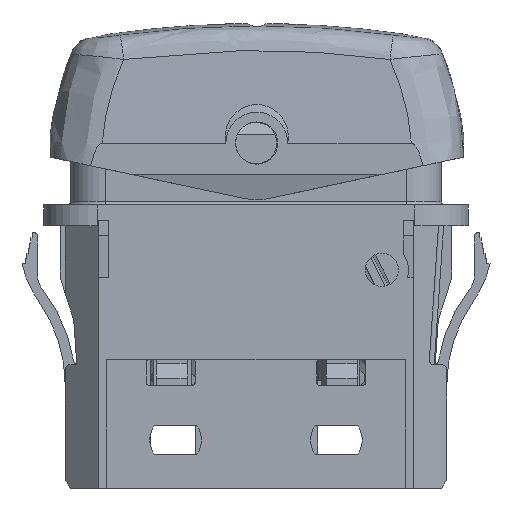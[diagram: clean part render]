
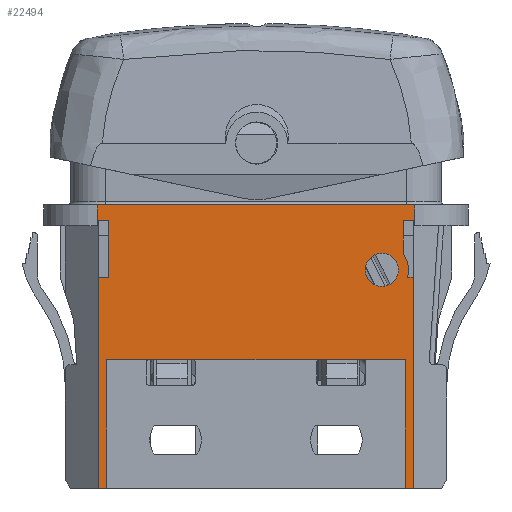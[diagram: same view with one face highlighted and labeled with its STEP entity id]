
A CAD part, front view. The second image highlights one B-rep face of the part: STEP entity #22494.
In plain terms, the highlighted planar face has unit normal (0, -1, 0).
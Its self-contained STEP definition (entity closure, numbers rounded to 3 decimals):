
#22312=AXIS2_PLACEMENT_3D('Plane Axis2P3D',#22309,#22310,#22311) ;
#22402=AXIS2_PLACEMENT_3D('Circle Axis2P3D',#22400,#22401,$) ;
#22409=AXIS2_PLACEMENT_3D('Circle Axis2P3D',#22407,#22408,$) ;
#22478=AXIS2_PLACEMENT_3D('Circle Axis2P3D',#22476,#22477,$) ;
#22487=AXIS2_PLACEMENT_3D('Circle Axis2P3D',#22485,#22486,$) ;
#19652=CARTESIAN_POINT('Vertex',(-15.4,-9.7,2.)) ;
#19655=CARTESIAN_POINT('Line Origine',(0.,-9.7,2.)) ;
#19659=CARTESIAN_POINT('Vertex',(15.4,-9.7,2.)) ;
#22294=CARTESIAN_POINT('Vertex',(-15.4,-9.7,0.)) ;
#22297=CARTESIAN_POINT('Line Origine',(-15.4,-9.7,1.)) ;
#22309=CARTESIAN_POINT('Axis2P3D Location',(-0.077,-9.7,8.796)) ;
#22314=CARTESIAN_POINT('Line Origine',(-15.275,-9.7,0.25)) ;
#22318=CARTESIAN_POINT('Vertex',(-15.275,-9.7,0.)) ;
#22320=CARTESIAN_POINT('Vertex',(-15.275,-9.7,0.5)) ;
#22323=CARTESIAN_POINT('Line Origine',(-14.775,-9.7,0.5)) ;
#22327=CARTESIAN_POINT('Vertex',(-14.275,-9.7,0.5)) ;
#22330=CARTESIAN_POINT('Line Origine',(-14.275,-9.7,-2.25)) ;
#22334=CARTESIAN_POINT('Vertex',(-14.275,-9.7,-5.)) ;
#22337=CARTESIAN_POINT('Line Origine',(-14.775,-9.7,-5.)) ;
#22341=CARTESIAN_POINT('Vertex',(-15.275,-9.7,-5.)) ;
#22344=CARTESIAN_POINT('Line Origine',(-15.275,-9.7,-15.25)) ;
#22348=CARTESIAN_POINT('Vertex',(-15.275,-9.7,-25.5)) ;
#22351=CARTESIAN_POINT('Line Origine',(-14.888,-9.7,-25.5)) ;
#22355=CARTESIAN_POINT('Vertex',(-14.5,-9.7,-25.5)) ;
#22358=CARTESIAN_POINT('Line Origine',(-14.5,-9.7,-19.25)) ;
#22362=CARTESIAN_POINT('Vertex',(-14.5,-9.7,-13.)) ;
#22365=CARTESIAN_POINT('Line Origine',(0.,-9.7,-13.)) ;
#22369=CARTESIAN_POINT('Vertex',(14.5,-9.7,-13.)) ;
#22372=CARTESIAN_POINT('Line Origine',(14.5,-9.7,-19.25)) ;
#22376=CARTESIAN_POINT('Vertex',(14.5,-9.7,-25.5)) ;
#22379=CARTESIAN_POINT('Line Origine',(14.888,-9.7,-25.5)) ;
#22383=CARTESIAN_POINT('Vertex',(15.275,-9.7,-25.5)) ;
#22386=CARTESIAN_POINT('Line Origine',(15.275,-9.7,-15.25)) ;
#22390=CARTESIAN_POINT('Vertex',(15.275,-9.7,-5.)) ;
#22393=CARTESIAN_POINT('Line Origine',(14.989,-9.7,-5.)) ;
#22397=CARTESIAN_POINT('Vertex',(14.704,-9.7,-5.)) ;
#22400=CARTESIAN_POINT('Axis2P3D Location',(12.2,-9.7,-4.3)) ;
#22404=CARTESIAN_POINT('Vertex',(14.8,-9.7,-4.3)) ;
#22407=CARTESIAN_POINT('Axis2P3D Location',(12.2,-9.7,-4.3)) ;
#22411=CARTESIAN_POINT('Vertex',(14.275,-9.7,-2.733)) ;
#22414=CARTESIAN_POINT('Line Origine',(14.275,-9.7,-1.117)) ;
#22418=CARTESIAN_POINT('Vertex',(14.275,-9.7,0.5)) ;
#22421=CARTESIAN_POINT('Line Origine',(14.775,-9.7,0.5)) ;
#22425=CARTESIAN_POINT('Vertex',(15.275,-9.7,0.5)) ;
#22428=CARTESIAN_POINT('Line Origine',(15.275,-9.7,0.25)) ;
#22432=CARTESIAN_POINT('Vertex',(15.275,-9.7,0.)) ;
#22435=CARTESIAN_POINT('Line Origine',(15.338,-9.7,0.)) ;
#22439=CARTESIAN_POINT('Vertex',(15.4,-9.7,0.)) ;
#22442=CARTESIAN_POINT('Line Origine',(15.4,-9.7,1.)) ;
#22447=CARTESIAN_POINT('Line Origine',(-15.338,-9.7,0.)) ;
#22476=CARTESIAN_POINT('Axis2P3D Location',(12.2,-9.7,-4.3)) ;
#22480=CARTESIAN_POINT('Vertex',(10.6,-9.7,-4.3)) ;
#22482=CARTESIAN_POINT('Vertex',(13.8,-9.7,-4.3)) ;
#22485=CARTESIAN_POINT('Axis2P3D Location',(12.2,-9.7,-4.3)) ;
#19656=DIRECTION('Vector Direction',(1.,0.,0.)) ;
#22298=DIRECTION('Vector Direction',(0.,0.,-1.)) ;
#22310=DIRECTION('Axis2P3D Direction',(-0.,-1.,-0.)) ;
#22311=DIRECTION('Axis2P3D XDirection',(-1.,0.,0.)) ;
#22315=DIRECTION('Vector Direction',(0.,0.,1.)) ;
#22324=DIRECTION('Vector Direction',(-1.,0.,0.)) ;
#22331=DIRECTION('Vector Direction',(0.,0.,1.)) ;
#22338=DIRECTION('Vector Direction',(-1.,0.,0.)) ;
#22345=DIRECTION('Vector Direction',(0.,0.,-1.)) ;
#22352=DIRECTION('Vector Direction',(1.,0.,0.)) ;
#22359=DIRECTION('Vector Direction',(0.,0.,-1.)) ;
#22366=DIRECTION('Vector Direction',(1.,0.,0.)) ;
#22373=DIRECTION('Vector Direction',(0.,0.,-1.)) ;
#22380=DIRECTION('Vector Direction',(1.,0.,0.)) ;
#22387=DIRECTION('Vector Direction',(0.,0.,-1.)) ;
#22394=DIRECTION('Vector Direction',(-1.,0.,0.)) ;
#22401=DIRECTION('Axis2P3D Direction',(-0.,-1.,-0.)) ;
#22408=DIRECTION('Axis2P3D Direction',(-0.,-1.,-0.)) ;
#22415=DIRECTION('Vector Direction',(0.,0.,-1.)) ;
#22422=DIRECTION('Vector Direction',(-1.,0.,0.)) ;
#22429=DIRECTION('Vector Direction',(0.,0.,-1.)) ;
#22436=DIRECTION('Vector Direction',(1.,0.,0.)) ;
#22443=DIRECTION('Vector Direction',(0.,0.,-1.)) ;
#22448=DIRECTION('Vector Direction',(1.,0.,0.)) ;
#22477=DIRECTION('Axis2P3D Direction',(-0.,-1.,-0.)) ;
#22486=DIRECTION('Axis2P3D Direction',(-0.,-1.,-0.)) ;
#19657=VECTOR('Line Direction',#19656,1.) ;
#22299=VECTOR('Line Direction',#22298,1.) ;
#22316=VECTOR('Line Direction',#22315,1.) ;
#22325=VECTOR('Line Direction',#22324,1.) ;
#22332=VECTOR('Line Direction',#22331,1.) ;
#22339=VECTOR('Line Direction',#22338,1.) ;
#22346=VECTOR('Line Direction',#22345,1.) ;
#22353=VECTOR('Line Direction',#22352,1.) ;
#22360=VECTOR('Line Direction',#22359,1.) ;
#22367=VECTOR('Line Direction',#22366,1.) ;
#22374=VECTOR('Line Direction',#22373,1.) ;
#22381=VECTOR('Line Direction',#22380,1.) ;
#22388=VECTOR('Line Direction',#22387,1.) ;
#22395=VECTOR('Line Direction',#22394,1.) ;
#22416=VECTOR('Line Direction',#22415,1.) ;
#22423=VECTOR('Line Direction',#22422,1.) ;
#22430=VECTOR('Line Direction',#22429,1.) ;
#22437=VECTOR('Line Direction',#22436,1.) ;
#22444=VECTOR('Line Direction',#22443,1.) ;
#22449=VECTOR('Line Direction',#22448,1.) ;
#22453=ORIENTED_EDGE('',*,*,#22322,.T.) ;
#22454=ORIENTED_EDGE('',*,*,#22329,.F.) ;
#22455=ORIENTED_EDGE('',*,*,#22336,.F.) ;
#22456=ORIENTED_EDGE('',*,*,#22343,.T.) ;
#22457=ORIENTED_EDGE('',*,*,#22350,.T.) ;
#22458=ORIENTED_EDGE('',*,*,#22357,.T.) ;
#22459=ORIENTED_EDGE('',*,*,#22364,.F.) ;
#22460=ORIENTED_EDGE('',*,*,#22371,.T.) ;
#22461=ORIENTED_EDGE('',*,*,#22378,.T.) ;
#22462=ORIENTED_EDGE('',*,*,#22385,.T.) ;
#22463=ORIENTED_EDGE('',*,*,#22392,.F.) ;
#22464=ORIENTED_EDGE('',*,*,#22399,.T.) ;
#22465=ORIENTED_EDGE('',*,*,#22406,.T.) ;
#22466=ORIENTED_EDGE('',*,*,#22413,.T.) ;
#22467=ORIENTED_EDGE('',*,*,#22420,.F.) ;
#22468=ORIENTED_EDGE('',*,*,#22427,.F.) ;
#22469=ORIENTED_EDGE('',*,*,#22434,.T.) ;
#22470=ORIENTED_EDGE('',*,*,#22441,.T.) ;
#22471=ORIENTED_EDGE('',*,*,#22446,.F.) ;
#22472=ORIENTED_EDGE('',*,*,#19661,.F.) ;
#22473=ORIENTED_EDGE('',*,*,#22301,.T.) ;
#22474=ORIENTED_EDGE('',*,*,#22451,.T.) ;
#22491=ORIENTED_EDGE('',*,*,#22484,.F.) ;
#22492=ORIENTED_EDGE('',*,*,#22489,.F.) ;
#22493=FACE_BOUND('',#22490,.T.) ;
#22494=ADVANCED_FACE('PartBody ( Schalter )',(#22475,#22493),#22313,.T.) ;
#22403=CIRCLE('generated circle',#22402,2.6) ;
#22410=CIRCLE('generated circle',#22409,2.6) ;
#22479=CIRCLE('generated circle',#22478,1.6) ;
#22488=CIRCLE('generated circle',#22487,1.6) ;
#19661=EDGE_CURVE('',#19653,#19660,#19658,.T.) ;
#22301=EDGE_CURVE('',#19653,#22295,#22300,.T.) ;
#22322=EDGE_CURVE('',#22319,#22321,#22317,.T.) ;
#22329=EDGE_CURVE('',#22328,#22321,#22326,.T.) ;
#22336=EDGE_CURVE('',#22335,#22328,#22333,.T.) ;
#22343=EDGE_CURVE('',#22335,#22342,#22340,.T.) ;
#22350=EDGE_CURVE('',#22342,#22349,#22347,.T.) ;
#22357=EDGE_CURVE('',#22349,#22356,#22354,.T.) ;
#22364=EDGE_CURVE('',#22363,#22356,#22361,.T.) ;
#22371=EDGE_CURVE('',#22363,#22370,#22368,.T.) ;
#22378=EDGE_CURVE('',#22370,#22377,#22375,.T.) ;
#22385=EDGE_CURVE('',#22377,#22384,#22382,.T.) ;
#22392=EDGE_CURVE('',#22391,#22384,#22389,.T.) ;
#22399=EDGE_CURVE('',#22391,#22398,#22396,.T.) ;
#22406=EDGE_CURVE('',#22398,#22405,#22403,.T.) ;
#22413=EDGE_CURVE('',#22405,#22412,#22410,.T.) ;
#22420=EDGE_CURVE('',#22419,#22412,#22417,.T.) ;
#22427=EDGE_CURVE('',#22426,#22419,#22424,.T.) ;
#22434=EDGE_CURVE('',#22426,#22433,#22431,.T.) ;
#22441=EDGE_CURVE('',#22433,#22440,#22438,.T.) ;
#22446=EDGE_CURVE('',#19660,#22440,#22445,.T.) ;
#22451=EDGE_CURVE('',#22295,#22319,#22450,.T.) ;
#22484=EDGE_CURVE('',#22481,#22483,#22479,.T.) ;
#22489=EDGE_CURVE('',#22483,#22481,#22488,.T.) ;
#22452=EDGE_LOOP('',(#22453,#22454,#22455,#22456,#22457,#22458,#22459,#22460,#22461,#22462,#22463,#22464,#22465,#22466,#22467,#22468,#22469,#22470,#22471,#22472,#22473,#22474)) ;
#22490=EDGE_LOOP('',(#22491,#22492)) ;
#22475=FACE_OUTER_BOUND('',#22452,.T.) ;
#19658=LINE('Line',#19655,#19657) ;
#22300=LINE('Line',#22297,#22299) ;
#22317=LINE('Line',#22314,#22316) ;
#22326=LINE('Line',#22323,#22325) ;
#22333=LINE('Line',#22330,#22332) ;
#22340=LINE('Line',#22337,#22339) ;
#22347=LINE('Line',#22344,#22346) ;
#22354=LINE('Line',#22351,#22353) ;
#22361=LINE('Line',#22358,#22360) ;
#22368=LINE('Line',#22365,#22367) ;
#22375=LINE('Line',#22372,#22374) ;
#22382=LINE('Line',#22379,#22381) ;
#22389=LINE('Line',#22386,#22388) ;
#22396=LINE('Line',#22393,#22395) ;
#22417=LINE('Line',#22414,#22416) ;
#22424=LINE('Line',#22421,#22423) ;
#22431=LINE('Line',#22428,#22430) ;
#22438=LINE('Line',#22435,#22437) ;
#22445=LINE('Line',#22442,#22444) ;
#22450=LINE('Line',#22447,#22449) ;
#22313=PLANE('',#22312) ;
#19653=VERTEX_POINT('',#19652) ;
#19660=VERTEX_POINT('',#19659) ;
#22295=VERTEX_POINT('',#22294) ;
#22319=VERTEX_POINT('',#22318) ;
#22321=VERTEX_POINT('',#22320) ;
#22328=VERTEX_POINT('',#22327) ;
#22335=VERTEX_POINT('',#22334) ;
#22342=VERTEX_POINT('',#22341) ;
#22349=VERTEX_POINT('',#22348) ;
#22356=VERTEX_POINT('',#22355) ;
#22363=VERTEX_POINT('',#22362) ;
#22370=VERTEX_POINT('',#22369) ;
#22377=VERTEX_POINT('',#22376) ;
#22384=VERTEX_POINT('',#22383) ;
#22391=VERTEX_POINT('',#22390) ;
#22398=VERTEX_POINT('',#22397) ;
#22405=VERTEX_POINT('',#22404) ;
#22412=VERTEX_POINT('',#22411) ;
#22419=VERTEX_POINT('',#22418) ;
#22426=VERTEX_POINT('',#22425) ;
#22433=VERTEX_POINT('',#22432) ;
#22440=VERTEX_POINT('',#22439) ;
#22481=VERTEX_POINT('',#22480) ;
#22483=VERTEX_POINT('',#22482) ;
